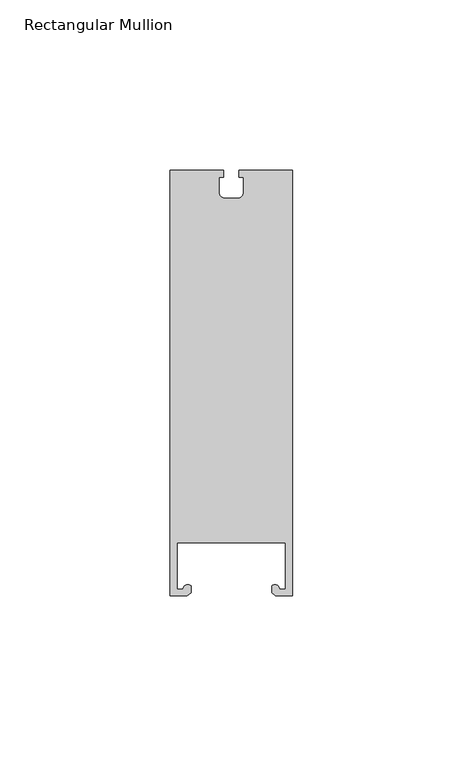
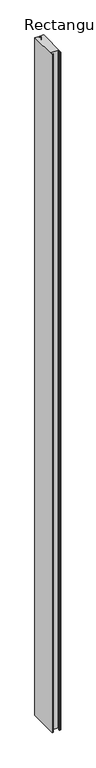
"""IFC4 building model written with IfcOpenShell, lengths in millimetres: member geometry, Rectangular Mullion : LD.1250 - left_renson."""

from ifc_helpers import new_model, si_unit, point, frame, frame_2d, origin, place, context, project, spatial, polyline, circle_curve, trimmed, segment, composite_curve, outline, extrude, source, transform, mapped, element, save


def rectangular_mullion_d2d38772(model_context):
    return source(origin(), model_context, "Body", "SweptSolid", [
        extrude(outline(composite_curve([segment(polyline([(-50.0, -126.0), (-55.0, -126.0), (-56.1000941, -125.0769114), (-56.1000941, -123.061549)]), True, "CONTINUOUS"), segment(trimmed(circle_curve(frame_2d((-55.2049928, -123.8498072)), 1.1927101), [point((-56.1000941, -123.061549))], [point((-54.3098916, -123.061549))], False, "CARTESIAN"), True, "CONTINUOUS"), segment(polyline([(-54.3098916, -123.061549), (-53.6747557, -123.9686169), (-52.1363551, -123.9686169), (-52.1363551, -110.3621189), (-84.0, -110.3621189), (-84.0, -123.9686169), (-82.3252443, -123.9686169), (-81.6901084, -123.061549)]), True, "CONTINUOUS"), segment(trimmed(circle_curve(frame_2d((-80.7950072, -123.8498072)), 1.1927101), [point((-81.6901084, -123.061549))], [point((-79.8999059, -123.061549))], False, "CARTESIAN"), True, "CONTINUOUS"), segment(polyline([(-79.8999059, -123.061549), (-79.8999059, -125.0769114), (-81.0, -126.0), (-86.0, -126.0), (-86.0, -1.0), (-70.2489445, -1.0), (-70.2489445, -3.0843142), (-71.59041, -3.0843142), (-71.59041, -7.4667227)]), True, "CONTINUOUS"), segment(trimmed(circle_curve(frame_2d((-69.8285608, -7.4667227)), 1.7618492), [point((-71.59041, -7.4667227))], [point((-70.0972447, -9.2079641))], True, "CARTESIAN"), True, "CONTINUOUS"), segment(polyline([(-70.0972447, -9.2079641), (-66.440123, -9.2079641)]), True, "CONTINUOUS"), segment(trimmed(circle_curve(frame_2d((-66.1714392, -7.4667227)), 1.7618492), [point((-66.440123, -9.2079641))], [point((-64.40959, -7.4667227))], True, "CARTESIAN"), True, "CONTINUOUS"), segment(polyline([(-64.40959, -7.4667227), (-64.40959, -3.0843142), (-65.7510555, -3.0843142), (-65.7510555, -1.0), (-50.0, -1.0), (-50.0, -126.0)]), True, "CONTINUOUS")], self_intersect=False)), frame((0.0, 0.0, -3000.0), z_axis=(0.0, 0.0, 1.0), x_axis=(1.0, 0.0, 0.0)), (0.0, 0.0, 1.0), 3000.0),
    ])


if __name__ == "__main__":
    model = new_model("IFC4")
    model_context = context("Model", 3, world=origin())
    ifc_project = project(units=[si_unit("LENGTHUNIT", "METRE", prefix="MILLI")], contexts=[model_context])
    site = spatial("IfcSite", under=ifc_project)
    building = spatial("IfcBuilding", under=site)
    placement = place(None, origin())
    rectangular_mullion_shape = rectangular_mullion_d2d38772(model_context)
    element("IfcMember", 1, ObjectType="Rectangular Mullion : LD.1250 - left_renson", at=placement, inside=building, context=model_context, shape_type="MappedRepresentation", body=[
        mapped(rectangular_mullion_shape, transform((0.0, 0.0, 0.0), x_axis=(1.0, 0.0, 0.0), y_axis=(0.0, 1.0, 0.0), z_axis=(0.0, 0.0, 1.0))),
    ])
    save(model, "model.ifc")
